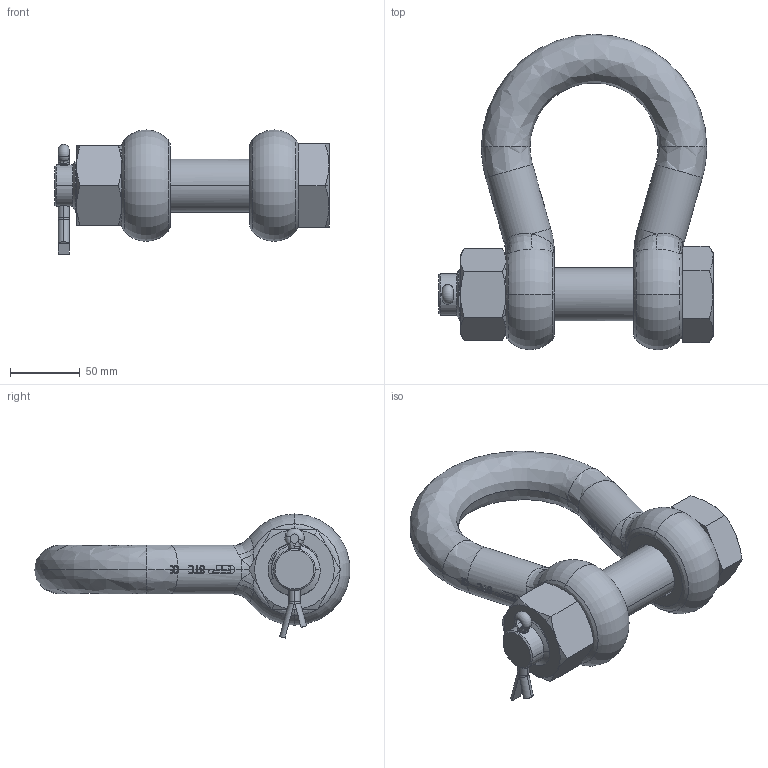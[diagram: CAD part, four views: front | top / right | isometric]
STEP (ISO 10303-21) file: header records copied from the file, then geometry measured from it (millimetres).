
FILE_DESCRIPTION (( 'STEP AP203' ), '1' );
FILE_NAME ('SUGHMB35.STEP', '2009-08-26T14:11:40', ( '.' ), ( '.' ), 'SwSTEP 2.0', 'SolidWorks 2009', '' );
FILE_SCHEMA (( 'CONFIG_CONTROL_DESIGN' ));
Length unit declared in the file: millimetre
Products named in the file (5): SUGHMB35; 21; 21_1; 21_2; 21_3
Assembly tree (4 placements, depth 2):
  SUGHMB35
    21
    21_2
    21_3
    21_1
Bounding box: 197 x 226.7 x 89.22 mm (x, y, z)
Volume: 864444 mm3; surface area: 124206.2 mm2
Topology: 4 solids, 4 shells, 883 faces, 2449 edges, 1598 vertices
Faces by surface type: bspline 401, plane 309, cylinder 134, cone 28, torus 11
Entity records: 46319 total; most frequent: CARTESIAN_POINT 26914, ORIENTED_EDGE 4882, EDGE_CURVE 2441, DIRECTION 2412, VERTEX_POINT 1598, VECTOR 1104, LINE 1104, B_SPLINE_CURVE_WITH_KNOTS 958
